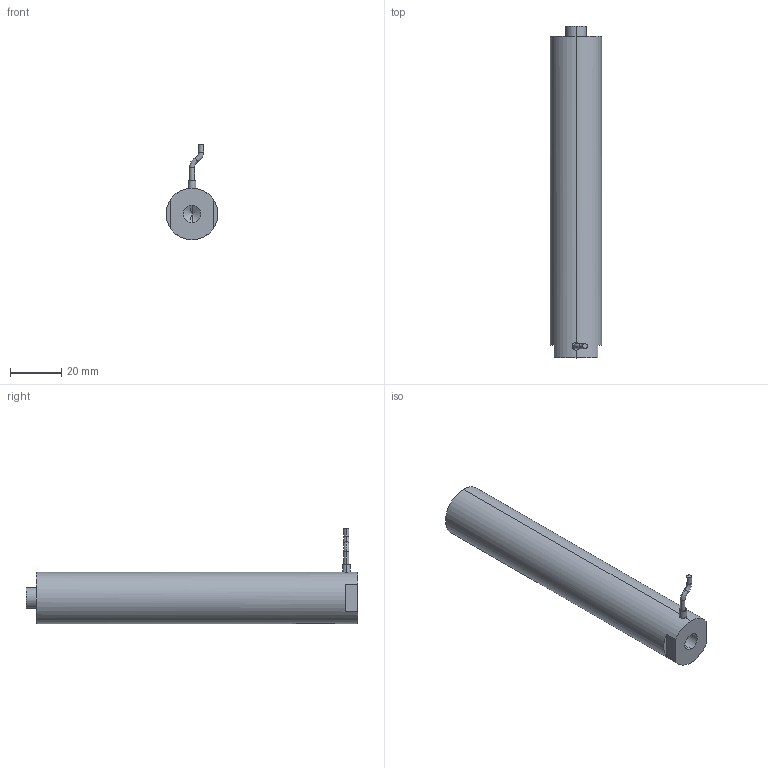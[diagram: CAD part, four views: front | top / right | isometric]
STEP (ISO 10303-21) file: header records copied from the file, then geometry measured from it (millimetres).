
FILE_DESCRIPTION (( 'STEP AP203' ), '1' );
FILE_NAME ('ﾆｽﾍｷﾊｽ120VS20.STEP', '2021-07-08T05:39:00', ( 'ﾎ｢ﾈ橆ﾃｻｧ' ), ( 'ﾎ｢ﾈ晥ｫﾋｾ' ), 'SwSTEP 2.0', 'SolidWorks 2016', '' );
FILE_SCHEMA (( 'CONFIG_CONTROL_DESIGN' ));
Length unit declared in the file: millimetre
Products named in the file (1): ƽͷʽ120VS20
Bounding box: 20 x 129 x 37.06 mm (x, y, z)
Volume: 39018.1 mm3; surface area: 8942.2 mm2
Topology: 1 solids, 1 shells, 936 faces, 2536 edges, 1685 vertices
Faces by surface type: bspline 517, plane 309, cylinder 104, torus 4, cone 2
Entity records: 44911 total; most frequent: CARTESIAN_POINT 25939, ORIENTED_EDGE 5060, EDGE_CURVE 2530, DIRECTION 1930, B_SPLINE_CURVE_WITH_KNOTS 1710, VERTEX_POINT 1683, EDGE_LOOP 1023, FACE_OUTER_BOUND 936
